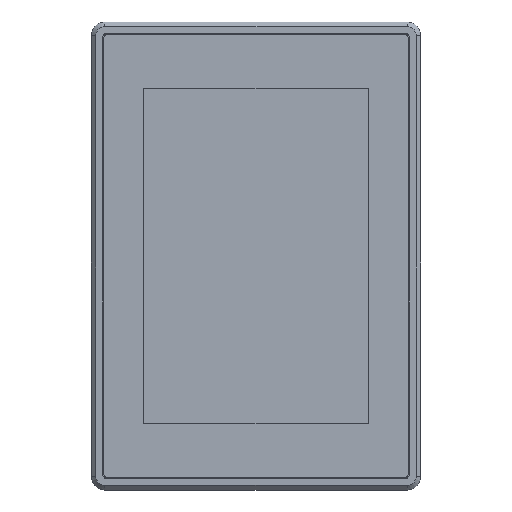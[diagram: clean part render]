
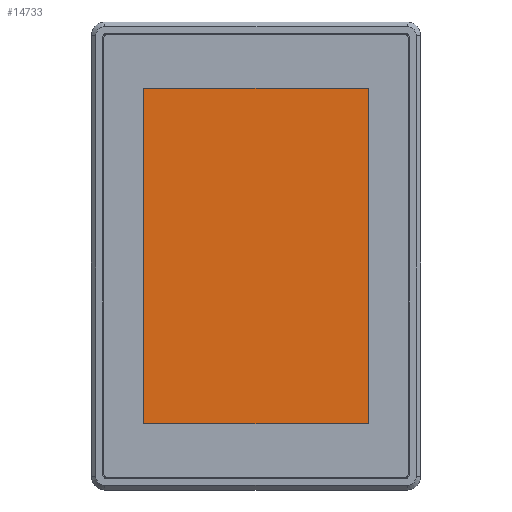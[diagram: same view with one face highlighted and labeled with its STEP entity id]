
A CAD part, top view. The second image highlights one B-rep face of the part: STEP entity #14733.
In plain terms, the highlighted planar face has unit normal (0, 0, 1).
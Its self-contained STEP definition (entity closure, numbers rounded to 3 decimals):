
#5127=DIRECTION('',(0.,1.,0.));
#5128=VECTOR('',#5127,73.84);
#5129=CARTESIAN_POINT('',(2.543,34.358,2.375));
#5130=LINE('',#5129,#5128);
#5131=DIRECTION('',(1.,0.,0.));
#5132=VECTOR('',#5131,49.36);
#5133=CARTESIAN_POINT('',(2.543,108.198,2.375));
#5134=LINE('',#5133,#5132);
#5135=DIRECTION('',(0.,-1.,0.));
#5136=VECTOR('',#5135,73.84);
#5137=CARTESIAN_POINT('',(51.903,108.198,2.375));
#5138=LINE('',#5137,#5136);
#5139=DIRECTION('',(-1.,0.,0.));
#5140=VECTOR('',#5139,49.36);
#5141=CARTESIAN_POINT('',(51.903,34.358,2.375));
#5142=LINE('',#5141,#5140);
#5802=CARTESIAN_POINT('',(2.543,108.198,2.375));
#5803=VERTEX_POINT('',#5802);
#5806=CARTESIAN_POINT('',(51.903,108.198,2.375));
#5807=VERTEX_POINT('',#5806);
#5808=CARTESIAN_POINT('',(2.543,34.358,2.375));
#5809=VERTEX_POINT('',#5808);
#5810=CARTESIAN_POINT('',(51.903,34.358,2.375));
#5811=VERTEX_POINT('',#5810);
#14722=CARTESIAN_POINT('',(27.223,71.278,2.375));
#14723=DIRECTION('',(0.,0.,1.));
#14724=DIRECTION('',(1.,0.,0.));
#14725=AXIS2_PLACEMENT_3D('',#14722,#14723,#14724);
#14726=PLANE('',#14725);
#14727=ORIENTED_EDGE('',*,*,#14674,.T.);
#14728=ORIENTED_EDGE('',*,*,#14689,.T.);
#14729=ORIENTED_EDGE('',*,*,#14703,.T.);
#14730=ORIENTED_EDGE('',*,*,#14716,.T.);
#14731=EDGE_LOOP('',(#14727,#14728,#14729,#14730));
#14732=FACE_OUTER_BOUND('',#14731,.F.);
#14674=EDGE_CURVE('',#5809,#5803,#5130,.T.);
#14689=EDGE_CURVE('',#5803,#5807,#5134,.T.);
#14703=EDGE_CURVE('',#5807,#5811,#5138,.T.);
#14716=EDGE_CURVE('',#5811,#5809,#5142,.T.);
#14733=ADVANCED_FACE('',(#14732),#14726,.T.);
